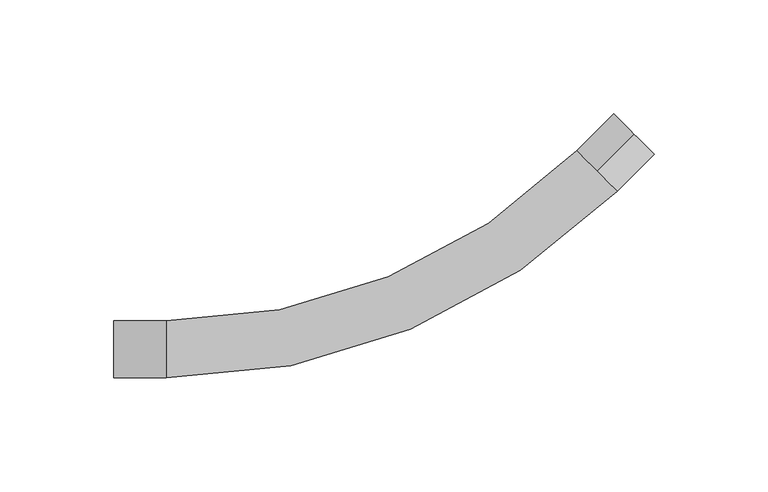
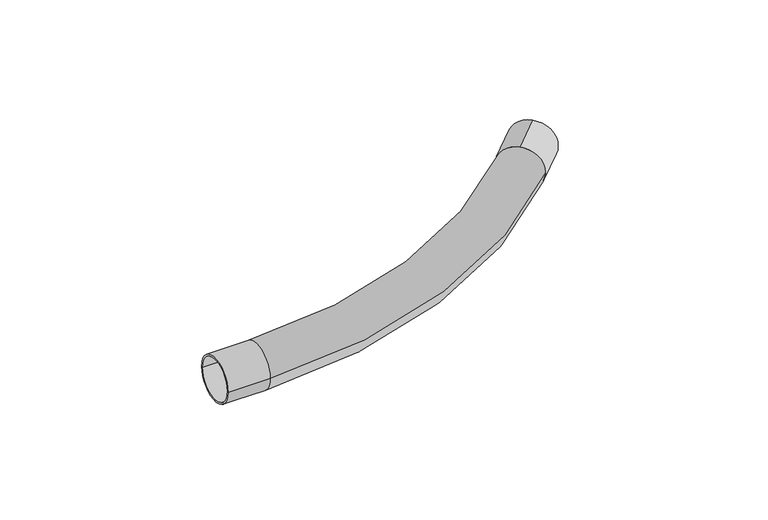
"""IFC4 building model written with IfcOpenShell, lengths in millimetres: cable carrier fitting geometry, КНС_МуфтаГибкаяТрубаТруба_IP65_DKC : Коробка."""

import ifcopenshell
import ifcopenshell.guid

model = None  # the IFC model being written
_history = None  # IfcOwnerHistory: only IFC2X3 demands one
_inside = {}  # id of a spatial element -> (the spatial element, [elements in it])
_under = {}  # id of a project, library or spatial element -> (it, [spatial elements below it])
_declared = {}  # id of a project -> (the project, [libraries it declares])
_typed = {}  # id of a type object -> (the type object, [elements of that type])
_made_of = {}  # id of a material, layer set ... -> (it, [elements and type objects made of it])


def new_model(schema):
    """Start an empty IFC model of exactly this schema.

    Asked for "IFC4X3", IfcOpenShell would pick the latest addendum, in which some entities
    have other attributes; the version numbers below select the first issue.
    IFC2X3 requires an IfcOwnerHistory on every rooted entity: one is made here for all.
    """
    global model, _history
    if schema == "IFC4X3":
        model = ifcopenshell.file(schema_version=(4, 3, 0, 0))
    else:
        model = ifcopenshell.file(schema=schema)
    _inside.clear()
    _under.clear()
    _declared.clear()
    _typed.clear()
    _made_of.clear()
    _history = None
    if model.schema == "IFC2X3":
        org = make("IfcOrganization", Name="unknown")
        user = make(
            "IfcPersonAndOrganization",
            ThePerson=make("IfcPerson", FamilyName="unknown"),
            TheOrganization=org,
        )
        app = make(
            "IfcApplication",
            ApplicationDeveloper=org,
            Version="unknown",
            ApplicationFullName="unknown",
            ApplicationIdentifier="unknown",
        )
        _history = make(
            "IfcOwnerHistory",
            OwningUser=user,
            OwningApplication=app,
            ChangeAction="ADDED",
            CreationDate=0,
        )
    return model


def make(cls, **values):
    """One entity of the class cls with the attributes given. An attribute that is None is left unset."""
    return model.create_entity(
        cls, **{name: value for name, value in values.items() if value is not None}
    )


def rooted(cls, **values):
    """An entity with a GlobalId (a new one), such as an element, a storey or a relation."""
    return make(cls, GlobalId=ifcopenshell.guid.new(), OwnerHistory=_history, **values)


def si_unit(unit_type, name, prefix=None):
    """IfcSIUnit, for example si_unit("LENGTHUNIT", "METRE", prefix="MILLI")."""
    return make("IfcSIUnit", UnitType=unit_type, Prefix=prefix, Name=name)


def assignment(units):
    """IfcUnitAssignment: the units of a project."""
    return None if units is None else make("IfcUnitAssignment", Units=units)


def point(xyz):
    """IfcCartesianPoint."""
    return None if xyz is None else make("IfcCartesianPoint", Coordinates=xyz)


def direction(xyz):
    """IfcDirection."""
    return None if xyz is None else make("IfcDirection", DirectionRatios=xyz)


def frame(location, z_axis=None, x_axis=None):
    """IfcAxis2Placement3D, a coordinate frame: its origin and axes. An axis left out is left unset."""
    return make(
        "IfcAxis2Placement3D",
        Location=point(location),
        Axis=direction(z_axis),
        RefDirection=direction(x_axis),
    )


def origin():
    """The frame at (0, 0, 0) with its axes left unset."""
    return frame((0.0, 0.0, 0.0))


def place(relative_to, where):
    """IfcLocalPlacement: puts the frame where relative to a parent placement (None: the world)."""
    return make(
        "IfcLocalPlacement", PlacementRelTo=relative_to, RelativePlacement=where
    )


def context(
    kind, dimensions, precision=None, world=None, true_north=None, identifier=None
):
    """IfcGeometricRepresentationContext, for example the 3D "Model" context."""
    return make(
        "IfcGeometricRepresentationContext",
        ContextIdentifier=identifier,
        ContextType=kind,
        CoordinateSpaceDimension=dimensions,
        Precision=precision,
        WorldCoordinateSystem=world,
        TrueNorth=true_north,
    )


def project(units=None, contexts=None):
    """IfcProject with its units and contexts."""
    return rooted(
        "IfcProject",
        Name="project",
        RepresentationContexts=contexts,
        UnitsInContext=assignment(units),
    )


def spatial(cls, under=None, at=None, **own):
    """A site, building, storey or space (cls), placed at a placement, below another one or the project."""
    s = rooted(cls, ObjectPlacement=at, **own)
    if under is not None:
        _under.setdefault(under.id(), (under, []))[1].append(s)
    return s


def polyline(points):
    """IfcPolyline through the points."""
    return make("IfcPolyline", Points=[point(p) for p in points])


def circle_curve(where, radius):
    """IfcCircle in the frame where."""
    return make("IfcCircle", Position=where, Radius=radius)


def ellipse_curve(where, semi_axis1, semi_axis2):
    """IfcEllipse in the frame where."""
    return make(
        "IfcEllipse", Position=where, SemiAxis1=semi_axis1, SemiAxis2=semi_axis2
    )


def trimmed(basis, trim1, trim2, sense, master):
    """IfcTrimmedCurve: the piece of a basis curve between two trims."""
    return make(
        "IfcTrimmedCurve",
        BasisCurve=basis,
        Trim1=trim1,
        Trim2=trim2,
        SenseAgreement=sense,
        MasterRepresentation=master,
    )


def shape(context_of_items, identifier, shape_type, items):
    """IfcShapeRepresentation: the items that make up one representation, for example the "Body"."""
    return make(
        "IfcShapeRepresentation",
        ContextOfItems=context_of_items,
        RepresentationIdentifier=identifier,
        RepresentationType=shape_type,
        Items=items,
    )


def source(mapping_origin, context_of_items, identifier, shape_type, items):
    """IfcRepresentationMap: a shape defined once, which mapped items show again and again."""
    return make(
        "IfcRepresentationMap",
        MappingOrigin=mapping_origin,
        MappedRepresentation=shape(context_of_items, identifier, shape_type, items),
    )


def transform(
    local_origin,
    x_axis=None,
    y_axis=None,
    z_axis=None,
    scale=None,
    scale2=None,
    scale3=None,
    uniform=True,
):
    """IfcCartesianTransformationOperator3D, or its non-uniform kind. x_axis, y_axis, z_axis: its Axis1, 2, 3."""
    if uniform:
        return make(
            "IfcCartesianTransformationOperator3D",
            Axis1=direction(x_axis),
            Axis2=direction(y_axis),
            LocalOrigin=point(local_origin),
            Scale=scale,
            Axis3=direction(z_axis),
        )
    return make(
        "IfcCartesianTransformationOperator3DnonUniform",
        Axis1=direction(x_axis),
        Axis2=direction(y_axis),
        LocalOrigin=point(local_origin),
        Scale=scale,
        Axis3=direction(z_axis),
        Scale2=scale2,
        Scale3=scale3,
    )


def mapped(mapping_source, mapping_target):
    """IfcMappedItem: shows the shape of a source again, moved by a transform."""
    return make(
        "IfcMappedItem", MappingSource=mapping_source, MappingTarget=mapping_target
    )


def made_of(thing, what):
    """Note that an element or type object is made of a material, layer set ...; save() writes the relation."""
    if what is not None:
        _made_of.setdefault(what.id(), (what, []))[1].append(thing)
    return thing


def element(
    cls,
    number,
    at=None,
    inside=None,
    cuts=None,
    type_object=None,
    material=None,
    context=None,
    identifier="Body",
    shape_type=None,
    held_by="IfcProductDefinitionShape",
    body=None,
    shapes=None,
    **own,
):
    """One element of the class cls, such as IfcWall. Its Tag is "e" and its number.

    at: its placement. inside: the storey or other place that contains it. cuts: it is an
    opening in that element (IfcRelVoidsElement). A single representation is given by context,
    identifier, shape_type and body (its items); several are given by shapes. held_by: the class
    of the entity that holds the representations. save() writes the other relations.
    """
    e = rooted(cls, Tag="e%d" % number, ObjectPlacement=at, **own)
    if body is not None:
        shapes = [shape(context, identifier, shape_type, body)]
    if shapes is not None:
        e.Representation = make(held_by, Representations=shapes)
    if inside is not None:
        _inside.setdefault(inside.id(), (inside, []))[1].append(e)
    if cuts is not None:
        rooted(
            "IfcRelVoidsElement", RelatingBuildingElement=cuts, RelatedOpeningElement=e
        )
    if type_object is not None:
        _typed.setdefault(type_object.id(), (type_object, []))[1].append(e)
    return made_of(e, material)


def aggregate(whole, parts):
    """IfcRelAggregates: a whole, such as a stair, and the parts it consists of."""
    return rooted("IfcRelAggregates", RelatingObject=whole, RelatedObjects=parts)


def save(model, path):
    """Write the relations noted so far, then the file.

    IfcRelAggregates (storeys below a building ...), IfcRelContainedInSpatialStructure (elements
    in a storey), IfcRelDefinesByType, IfcRelAssociatesMaterial and IfcRelDeclares: one each for
    every whole, place, type object, material and project.
    """
    for whole, parts in _under.values():
        aggregate(whole, parts)
    for where, things in _inside.values():
        rooted(
            "IfcRelContainedInSpatialStructure",
            RelatedElements=things,
            RelatingStructure=where,
        )
    for kind, things in _typed.values():
        rooted("IfcRelDefinesByType", RelatedObjects=things, RelatingType=kind)
    for what, things in _made_of.values():
        rooted("IfcRelAssociatesMaterial", RelatedObjects=things, RelatingMaterial=what)
    for by, libraries in _declared.values():
        rooted("IfcRelDeclares", RelatingContext=by, RelatedDefinitions=libraries)
    model.write(path)


def plane_surface(at):
    """IfcPlane: the flat surface through the origin of the frame at, square to its z axis."""
    return make("IfcPlane", Position=at)


def cylinder_surface(at, radius):
    """IfcCylindricalSurface: all points at the distance radius from the z axis of the frame at."""
    return make("IfcCylindricalSurface", Position=at, Radius=radius)


def revolved_surface(curve, axis_point, axis_direction):
    """IfcSurfaceOfRevolution: the curve turned about the line through axis_point along axis_direction."""
    return make(
        "IfcSurfaceOfRevolution",
        SweptCurve=make("IfcArbitraryOpenProfileDef", ProfileType="CURVE", Curve=curve),
        AxisPosition=make("IfcAxis1Placement", Location=point(axis_point), Axis=direction(axis_direction)),
    )


def advanced_brep(points, edges, surfaces, faces):
    """IfcAdvancedBrep: a solid bounded by faces that lie on surfaces and meet in shared edges.

    An edge is (start, end): straight between two places in points (the first is 0);
    or (start, end, curve); or (start, end, curve, False) where it runs against its curve.
    A face is (place in surfaces, loops), or (place, loops, False) where it looks against
    its surface's normal. A loop lists edges by number (the first is 1), with a minus sign
    where the edge is run from its end to its start. The first loop is the outer one.
    """
    corners = [point(p) for p in points]
    vertices = [make("IfcVertexPoint", VertexGeometry=c) for c in corners]
    made = []
    for start, end, *more in edges:
        made.append(
            make(
                "IfcEdgeCurve",
                EdgeStart=vertices[start],
                EdgeEnd=vertices[end],
                EdgeGeometry=more[0] if more else make("IfcPolyline", Points=[corners[start], corners[end]]),
                SameSense=more[1] if len(more) > 1 else True,
            )
        )
    hull = []
    for where, loops, *sense in faces:
        bounds = []
        for j, loop in enumerate(loops):
            ring = [make("IfcOrientedEdge", EdgeElement=made[abs(k) - 1], Orientation=k > 0) for k in loop]
            bounds.append(
                make(
                    "IfcFaceOuterBound" if j == 0 else "IfcFaceBound",
                    Bound=make("IfcEdgeLoop", EdgeList=ring),
                    Orientation=True,
                )
            )
        hull.append(make("IfcAdvancedFace", Bounds=bounds, FaceSurface=surfaces[where], SameSense=sense[0] if sense else True))
    return make("IfcAdvancedBrep", Outer=make("IfcClosedShell", CfsFaces=hull))


def cable_carrier_fitting_6fbfd521(model_context):
    return source(origin(), model_context, "Body", "AdvancedBrep", [
        advanced_brep(
        [(-133.7525484, -12.5, 0.0), (-133.7525484, 12.5, 0.0), (-133.7525484, -11.5, 0.0), (-133.7525484, 11.5, 0.0), (-110.7525484, -12.5, 0.0), (-110.7525484, 12.5, 0.0), (-110.7525484, -11.5, 0.0), (-110.7525484, 11.5, 0.0), (78.313878, 78.313878, 11.5), (78.313878, 78.313878, -11.5), (87.1527128, 69.4750432, 0.0), (78.313878, 78.313878, 12.5), (69.4750432, 87.1527128, 0.0), (78.313878, 78.313878, -12.5), (94.577334, 94.577334, -12.5), (94.577334, 94.577334, 12.5), (94.577334, 94.577334, -11.5), (94.577334, 94.577334, 11.5)],
        [
            (0, 1, circle_curve(frame((-133.7525484, 0.0, 0.0), z_axis=(-1.0, 0.0, 0.0), x_axis=(0.0, 1.0, 0.0)), 12.5)),
            (1, 0, circle_curve(frame((-133.7525484, 0.0, 0.0), z_axis=(-1.0, 0.0, 0.0), x_axis=(0.0, 1.0, 0.0)), 12.5)),
            (2, 3, circle_curve(frame((-133.7525484, 0.0, 0.0), z_axis=(1.0, 0.0, 0.0), x_axis=(0.0, 1.0, 0.0)), 11.5)),
            (3, 2, circle_curve(frame((-133.7525484, 0.0, 0.0), z_axis=(1.0, 0.0, 0.0), x_axis=(0.0, 1.0, 0.0)), 11.5)),
            (0, 4),
            (4, 5, circle_curve(frame((-110.7525484, 0.0, 0.0), z_axis=(-1.0, 0.0, 0.0), x_axis=(0.0, 1.0, 0.0)), 12.5)),
            (5, 1),
            (5, 4, circle_curve(frame((-110.7525484, 0.0, 0.0), z_axis=(-1.0, 0.0, 0.0), x_axis=(0.0, 1.0, 0.0)), 12.5)),
            (2, 6),
            (6, 7, circle_curve(frame((-110.7525484, 0.0, 0.0), z_axis=(1.0, 0.0, 0.0), x_axis=(0.0, 1.0, 0.0)), 11.5)),
            (7, 3),
            (7, 6, circle_curve(frame((-110.7525484, 0.0, 0.0), z_axis=(1.0, 0.0, 0.0), x_axis=(0.0, 1.0, 0.0)), 11.5)),
            (8, 9, circle_curve(frame((78.313878, 78.313878, 0.0), z_axis=(0.7071067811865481, 0.707106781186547, 0.0), x_axis=(0.0, 0.0, 1.0)), 11.5)),
            (9, 8, circle_curve(frame((78.313878, 78.313878, 0.0), z_axis=(0.7071067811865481, 0.707106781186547, 0.0), x_axis=(0.0, 0.0, 1.0)), 11.5)),
            (4, 10, circle_curve(frame((-110.7525484, 267.3803044, 0.0), z_axis=(0.0, 0.0, 1.0), x_axis=(0.7071067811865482, -0.7071067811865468, 0.0)), 279.8803044)),
            (10, 11, circle_curve(frame((78.313878, 78.313878, 0.0), z_axis=(-0.7071067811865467, -0.7071067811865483, 0.0), x_axis=(0.7071067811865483, -0.7071067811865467, 0.0)), 12.5)),
            (11, 12, circle_curve(frame((78.313878, 78.313878, 0.0), z_axis=(-0.7071067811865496, -0.7071067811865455, 0.0), x_axis=(0.7071067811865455, -0.7071067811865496, 0.0)), 12.5)),
            (12, 5, circle_curve(frame((-110.7525484, 267.3803044, 0.0), z_axis=(0.0, 0.0, -1.0), x_axis=(0.7071067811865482, -0.7071067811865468, 0.0)), 254.8803044)),
            (12, 13, circle_curve(frame((78.313878, 78.313878, 0.0), z_axis=(-0.7071067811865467, -0.7071067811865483, 0.0), x_axis=(0.7071067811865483, -0.7071067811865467, 0.0)), 12.5)),
            (13, 10, circle_curve(frame((78.313878, 78.313878, 0.0), z_axis=(-0.7071067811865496, -0.7071067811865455, 0.0), x_axis=(0.7071067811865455, -0.7071067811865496, 0.0)), 12.5)),
            (14, 15, circle_curve(frame((94.577334, 94.577334, 0.0), z_axis=(0.7071067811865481, 0.707106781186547, 0.0), x_axis=(0.0, 0.0, 1.0)), 12.5)),
            (15, 14, circle_curve(frame((94.577334, 94.577334, 0.0), z_axis=(0.7071067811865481, 0.707106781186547, 0.0), x_axis=(0.0, 0.0, 1.0)), 12.5)),
            (16, 17, circle_curve(frame((94.577334, 94.577334, 0.0), z_axis=(-0.7071067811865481, -0.707106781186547, 0.0), x_axis=(0.0, 0.0, 1.0)), 11.5)),
            (17, 16, circle_curve(frame((94.577334, 94.577334, 0.0), z_axis=(-0.7071067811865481, -0.707106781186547, 0.0), x_axis=(0.0, 0.0, 1.0)), 11.5)),
            (14, 13),
            (11, 15),
            (16, 9),
            (8, 17),
        ],
        [
            plane_surface(frame((-133.7525484, 0.0, 0.0), z_axis=(-1.0, 0.0, 0.0), x_axis=(0.0, 0.0, 1.0))),
            cylinder_surface(frame((-133.7525484, 0.0, 0.0), z_axis=(-1.0, 0.0, 0.0), x_axis=(0.0, 1.0, 0.0)), 12.5),
            revolved_surface(polyline([(-110.7525484, 11.5, 0.0), (-133.7525484, 11.5, 0.0)]), (-133.7525484, 0.0, 0.0), (1.0, 0.0, 0.0)),
            plane_surface(frame((78.313878, 78.313878, 0.0), z_axis=(0.7071067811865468, 0.7071067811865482, 0.0), x_axis=(0.0, 0.0, 1.0))),
            plane_surface(frame((-110.7525484, 0.0, 0.0), z_axis=(-1.0, 0.0, 0.0), x_axis=(0.0, 0.0, 1.0))),
            revolved_surface(trimmed(ellipse_curve(frame((78.313878, 78.313878, 0.0), z_axis=(0.7071067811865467, 0.7071067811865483, 0.0), x_axis=(0.7071067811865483, -0.7071067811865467, 0.0)), 12.5, 12.5), [point((69.4750432, 87.1527128, 0.0))], [point((87.1527128, 69.4750432, 0.0))], True, "CARTESIAN"), (-110.7525484, 267.3803044, 0.0), (0.0, 0.0, -1.0)),
            revolved_surface(trimmed(ellipse_curve(frame((78.313878, 78.313878, 0.0), z_axis=(0.7071067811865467, 0.7071067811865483, 0.0), x_axis=(0.7071067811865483, -0.7071067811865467, 0.0)), 12.5, 12.5), [point((87.1527128, 69.4750432, 0.0))], [point((69.4750432, 87.1527128, 0.0))], True, "CARTESIAN"), (-110.7525484, 267.3803044, 0.0), (0.0, 0.0, -1.0)),
            plane_surface(frame((94.577334, 94.577334, 12.5), z_axis=(0.7071067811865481, 0.707106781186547, 0.0), x_axis=(0.707106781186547, -0.7071067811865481, 0.0))),
            cylinder_surface(frame((78.313878, 78.313878, 0.0), z_axis=(0.7071067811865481, 0.707106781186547, 0.0), x_axis=(0.0, 0.0, 1.0)), 12.5),
            revolved_surface(polyline([(78.313878, 78.313878, 11.5), (94.57733400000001, 94.57733399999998, 11.5)]), (78.313878, 78.313878, 0.0), (-0.7071067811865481, -0.707106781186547, 0.0)),
        ],
        [
            (0, [[1, 2], [3, 4]]),
            (1, [[-1, 5, 6, 7]]),
            (1, [[-2, -7, 8, -5]]),
            (2, [[-3, 9, 10, 11]]),
            (2, [[-4, -11, 12, -9]]),
            (3, [[13, 14]]),
            (4, [[-10, -12]]),
            (5, [[15, 16, 17, 18, -6]]),
            (6, [[-15, -8, -18, 19, 20]]),
            (7, [[21, 22], [23, 24]]),
            (8, [[-21, 25, -19, -17, 26]]),
            (8, [[-22, -26, -16, -20, -25]]),
            (9, [[-23, 27, -13, 28]]),
            (9, [[-24, -28, -14, -27]]),
        ],
    ),
    ])


if __name__ == "__main__":
    model = new_model("IFC4")
    model_context = context("Model", 3, world=origin())
    ifc_project = project(units=[si_unit("LENGTHUNIT", "METRE", prefix="MILLI")], contexts=[model_context])
    site = spatial("IfcSite", under=ifc_project)
    building = spatial("IfcBuilding", under=site)
    placement = place(None, origin())
    cable_carrier_fitting_shape = cable_carrier_fitting_6fbfd521(model_context)
    element("IfcCableCarrierFitting", 1, ObjectType="КНС_МуфтаГибкаяТрубаТруба_IP65_DKC : Коробка", at=placement, inside=building, context=model_context, shape_type="MappedRepresentation", body=[
        mapped(cable_carrier_fitting_shape, transform((0.0, 0.0, 0.0), x_axis=(1.0, 0.0, 0.0), y_axis=(0.0, 1.0, 0.0), z_axis=(0.0, 0.0, 1.0))),
    ])
    save(model, "model.ifc")
